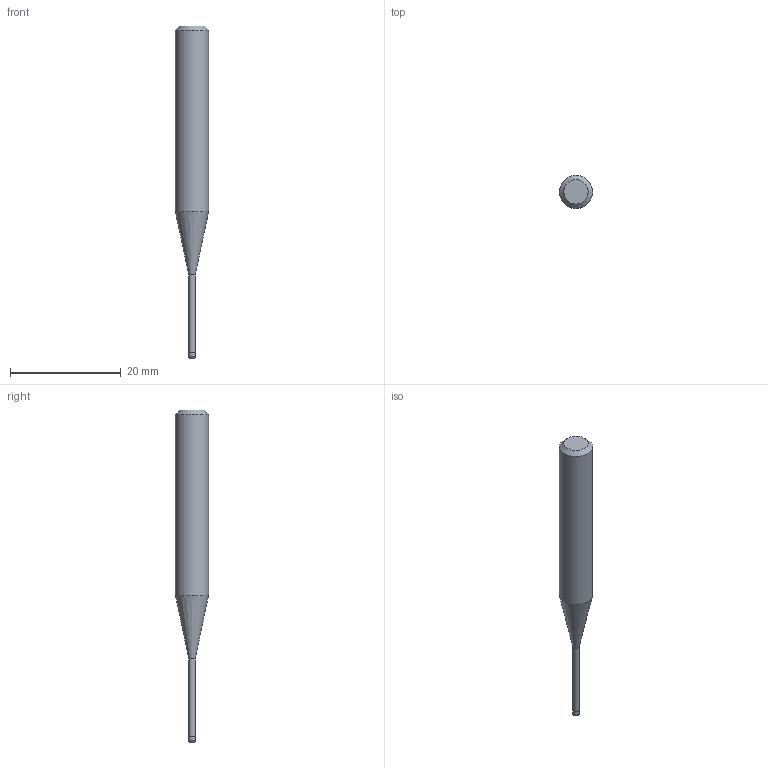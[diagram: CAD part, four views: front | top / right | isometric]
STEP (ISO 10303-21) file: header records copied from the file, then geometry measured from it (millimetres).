
FILE_DESCRIPTION((''),'2;1');
FILE_NAME('C:\Users\nsx150\AppData\Local\Temp\Mastercam 2021\17T8Q8S9EB\TEMP.step','2021-04-21T14:35:04',(''),(''),'STEP Write','Mastercam 2021 ... CNC Software, Inc.','');
FILE_SCHEMA(('AUTOMOTIVE_DESIGN'));
Length unit declared in the file: millimetre
Products named in the file (1): None
Bounding box: 6 x 6 x 60 mm (x, y, z)
Volume: 1091.1 mm3; surface area: 839.3 mm2
Topology: 2 solids, 2 shells, 10 faces, 14 edges, 8 vertices
Faces by surface type: plane 4, cylinder 3, cone 2, torus 1
Full cylindrical faces by diameter (mm): 1.14 x1, 1.2 x1, 6 x1
Entity records: 232 total; most frequent: DIRECTION 40, CARTESIAN_POINT 28, AXIS2_PLACEMENT_3D 20, ORIENTED_EDGE 16, EDGE_LOOP 16, STYLED_ITEM 13, ADVANCED_FACE 10, FACE_BOUND 10
